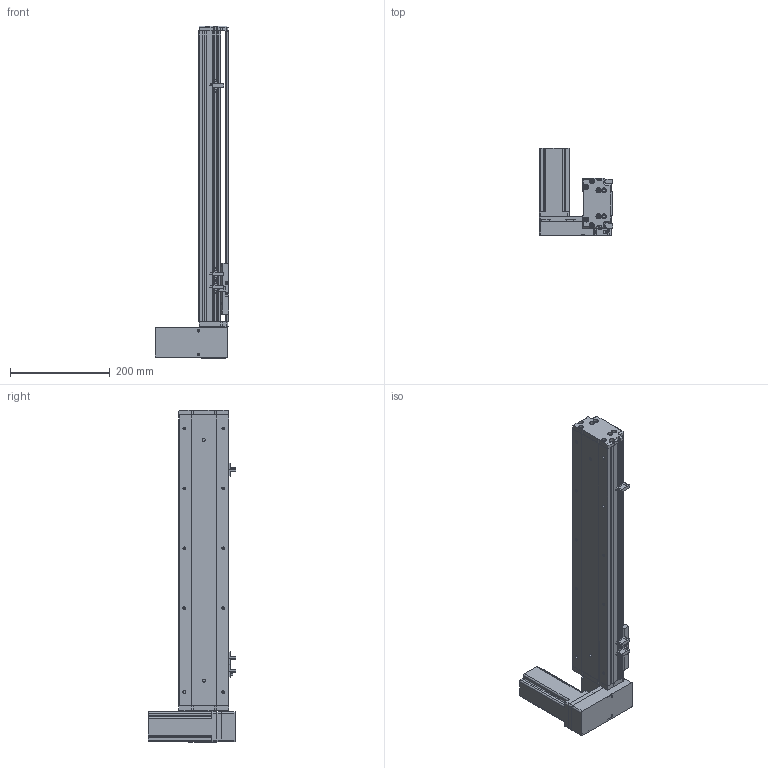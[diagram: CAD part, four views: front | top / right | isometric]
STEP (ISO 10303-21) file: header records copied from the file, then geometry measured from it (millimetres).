
FILE_DESCRIPTION (( 'STEP AP214' ), '1' );
FILE_NAME ('KSD100B-S400-MRD-CM.STEP', '2019-10-16T07:37:14', ( '微软用户' ), ( '微软中国' ), 'SwSTEP 2.0', 'SolidWorks 2014', '' );
FILE_SCHEMA (( 'AUTOMOTIVE_DESIGN' ));
Length unit declared in the file: millimetre
Products named in the file (12): 悵誘欶奻狟殏; 100宽马达安装板连板上下折丝杆同步带; 台达ECMA－C20604AS伺服电机; U倰嫖萇EEㄜSX672; 覜茼え100遵圉猾敕; 100宽防尘板400行程-同步带; 100宽马达安装板同步带右; 100宽同步带安装板半封闭; 100宽马达安装板同步带; 100遵傷啣肮祭湍; 100宽底板半封闭同步带400行程; KSD100B-S400-MRD-CM
Assembly tree (13 placements, depth 2):
  KSD100B-S400-MRD-CM
    100宽底板半封闭同步带400行程
    100遵傷啣肮祭湍
    100宽马达安装板同步带
    100宽同步带安装板半封闭
    100宽马达安装板同步带右
    100宽防尘板400行程-同步带
    覜茼え100遵圉猾敕
    U倰嫖萇EEㄜSX672  x3
    台达ECMA－C20604AS伺服电机
    100宽马达安装板连板上下折丝杆同步带
    悵誘欶奻狟殏
Bounding box: 148 x 174.7 x 665 mm (x, y, z)
Volume: 1840941.7 mm3; surface area: 576543 mm2
Topology: 14 solids, 14 shells, 1299 faces, 3622 edges, 2327 vertices
Faces by surface type: cylinder 629, plane 571, cone 99
Entity records: 44571 total; most frequent: CARTESIAN_POINT 8010, DIRECTION 6238, ORIENTED_EDGE 5952, EDGE_CURVE 2976, AXIS2_PLACEMENT_3D 2261, VERTEX_POINT 1951, LINE 1716, VECTOR 1716
